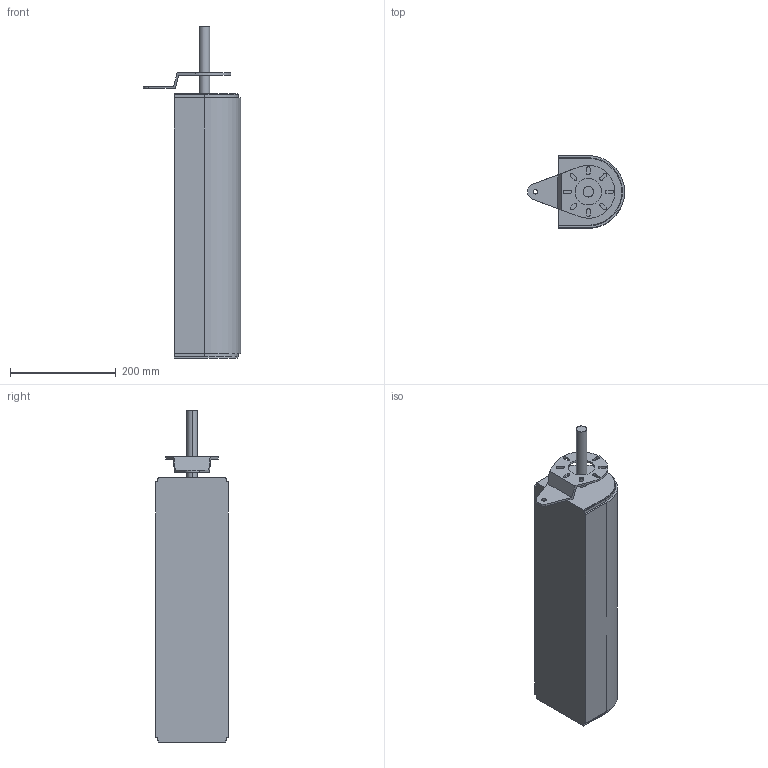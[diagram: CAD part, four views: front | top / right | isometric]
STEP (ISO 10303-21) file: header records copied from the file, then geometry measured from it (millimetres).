
FILE_DESCRIPTION (( 'STEP AP214' ), '1' );
FILE_NAME ('FS-MTC2-150-INOX Aandrijving & omloop.500 aandr rechts ra.STEP', '2017-02-08T12:38:39', ( '' ), ( '' ), 'SwSTEP 2.0', 'SolidWorks 2016', '' );
FILE_SCHEMA (( 'AUTOMOTIVE_DESIGN' ));
Length unit declared in the file: millimetre
Products named in the file (1): FS-MTC2-150-INOX Aandrijving & omloop.500 aandr rechts ra
Bounding box: 183.25 x 136.5 x 626.5 mm (x, y, z)
Volume: 7572864.7 mm3; surface area: 292761.3 mm2
Topology: 2 solids, 2 shells, 78 faces, 219 edges, 146 vertices
Faces by surface type: plane 42, cylinder 36
Entity records: 2618 total; most frequent: DIRECTION 449, CARTESIAN_POINT 444, ORIENTED_EDGE 438, EDGE_CURVE 219, AXIS2_PLACEMENT_3D 151, LINE 147, VECTOR 147, VERTEX_POINT 146
